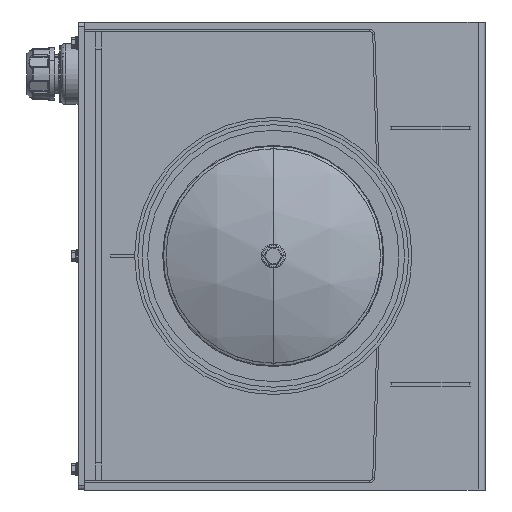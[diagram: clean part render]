
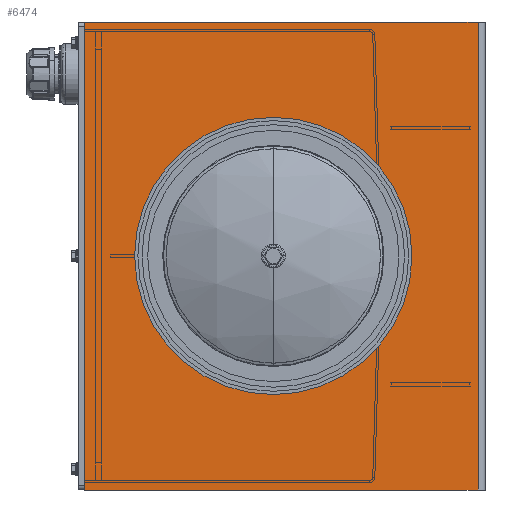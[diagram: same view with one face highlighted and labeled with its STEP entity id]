
A CAD part, left-side view. The second image highlights one B-rep face of the part: STEP entity #6474.
In plain terms, the highlighted planar face has unit normal (-1, 0, 0).
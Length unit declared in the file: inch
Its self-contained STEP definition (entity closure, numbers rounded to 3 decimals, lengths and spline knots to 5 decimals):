
#72 = VECTOR ( 'NONE', #24338, 39.37008 ) ;
#757 = VERTEX_POINT ( 'NONE', #30559 ) ;
#888 = LINE ( 'NONE', #1517, #72 ) ;
#1517 = CARTESIAN_POINT ( 'NONE',  ( -34.49004, 10.11377, -11.8407 ) ) ;
#2857 = VERTEX_POINT ( 'NONE', #6361 ) ;
#3709 = DIRECTION ( 'NONE',  ( 0., 0., 1. ) ) ;
#4177 = DIRECTION ( 'NONE',  ( 1., 0., 0. ) ) ;
#4435 = ORIENTED_EDGE ( 'NONE', *, *, #19303, .T. ) ;
#5324 = AXIS2_PLACEMENT_3D ( 'NONE', #28804, #13632, #31365 ) ;
#5544 = CARTESIAN_POINT ( 'NONE',  ( -34.49004, -0.76623, 1.6593 ) ) ;
#6361 = CARTESIAN_POINT ( 'NONE',  ( -34.49004, -0.76623, 7.7843 ) ) ;
#6416 = ORIENTED_EDGE ( 'NONE', *, *, #29722, .T. ) ;
#6474 = ADVANCED_FACE ( 'NONE', ( #20222, #6809 ), #11675, .F. ) ;
#6809 = FACE_OUTER_BOUND ( 'NONE', #32866, .T. ) ;
#7200 = ORIENTED_EDGE ( 'NONE', *, *, #18479, .F. ) ;
#7436 = CARTESIAN_POINT ( 'NONE',  ( -34.49004, -12.58693, 15.1593 ) ) ;
#8029 = EDGE_CURVE ( 'NONE', #15141, #757, #30074, .T. ) ;
#8078 = DIRECTION ( 'NONE',  ( 0., 0., 1. ) ) ;
#8112 = AXIS2_PLACEMENT_3D ( 'NONE', #5544, #23228, #8078 ) ;
#10224 = CARTESIAN_POINT ( 'NONE',  ( -34.49004, -12.58693, -11.8407 ) ) ;
#11195 = CIRCLE ( 'NONE', #8112, 6.125 ) ;
#11222 = LINE ( 'NONE', #21383, #24712 ) ;
#11675 = PLANE ( 'NONE',  #22448 ) ;
#13632 = DIRECTION ( 'NONE',  ( -1., 0., 0. ) ) ;
#14132 = CARTESIAN_POINT ( 'NONE',  ( -34.49004, -13.01623, 15.1593 ) ) ;
#14314 = CARTESIAN_POINT ( 'NONE',  ( -34.49004, -0.76623, -4.4657 ) ) ;
#14452 = DIRECTION ( 'NONE',  ( 0., -1., 0. ) ) ;
#15118 = VECTOR ( 'NONE', #14452, 39.37008 ) ;
#15141 = VERTEX_POINT ( 'NONE', #7436 ) ;
#16307 = EDGE_CURVE ( 'NONE', #18275, #2857, #31899, .T. ) ;
#16891 = EDGE_LOOP ( 'NONE', ( #7200, #18605 ) ) ;
#18213 = ORIENTED_EDGE ( 'NONE', *, *, #27937, .T. ) ;
#18275 = VERTEX_POINT ( 'NONE', #14314 ) ;
#18479 = EDGE_CURVE ( 'NONE', #2857, #18275, #11195, .T. ) ;
#18605 = ORIENTED_EDGE ( 'NONE', *, *, #16307, .F. ) ;
#19303 = EDGE_CURVE ( 'NONE', #30619, #24237, #28587, .T. ) ;
#19309 = CARTESIAN_POINT ( 'NONE',  ( -34.49004, 10.11377, -11.8407 ) ) ;
#20222 = FACE_BOUND ( 'NONE', #16891, .T. ) ;
#21383 = CARTESIAN_POINT ( 'NONE',  ( -34.49004, -12.58693, -11.8407 ) ) ;
#21873 = DIRECTION ( 'NONE',  ( 0., 0., -1. ) ) ;
#22448 = AXIS2_PLACEMENT_3D ( 'NONE', #19309, #4177, #21873 ) ;
#23228 = DIRECTION ( 'NONE',  ( -1., 0., 0. ) ) ;
#24237 = VERTEX_POINT ( 'NONE', #10224 ) ;
#24338 = DIRECTION ( 'NONE',  ( 0., 0., -1. ) ) ;
#24712 = VECTOR ( 'NONE', #3709, 39.37008 ) ;
#25580 = CARTESIAN_POINT ( 'NONE',  ( -34.49004, 10.11377, -11.8407 ) ) ;
#26654 = DIRECTION ( 'NONE',  ( 0., 1., 0. ) ) ;
#27669 = VECTOR ( 'NONE', #26654, 39.37008 ) ;
#27937 = EDGE_CURVE ( 'NONE', #24237, #15141, #11222, .T. ) ;
#28587 = LINE ( 'NONE', #29634, #15118 ) ;
#28804 = CARTESIAN_POINT ( 'NONE',  ( -34.49004, -0.76623, 1.6593 ) ) ;
#29634 = CARTESIAN_POINT ( 'NONE',  ( -34.49004, -13.01623, -11.8407 ) ) ;
#29722 = EDGE_CURVE ( 'NONE', #757, #30619, #888, .T. ) ;
#30074 = LINE ( 'NONE', #14132, #27669 ) ;
#30559 = CARTESIAN_POINT ( 'NONE',  ( -34.49004, 10.11377, 15.1593 ) ) ;
#30619 = VERTEX_POINT ( 'NONE', #25580 ) ;
#31365 = DIRECTION ( 'NONE',  ( 0., 0., 1. ) ) ;
#31759 = ORIENTED_EDGE ( 'NONE', *, *, #8029, .T. ) ;
#31899 = CIRCLE ( 'NONE', #5324, 6.125 ) ;
#32866 = EDGE_LOOP ( 'NONE', ( #18213, #31759, #6416, #4435 ) ) ;
